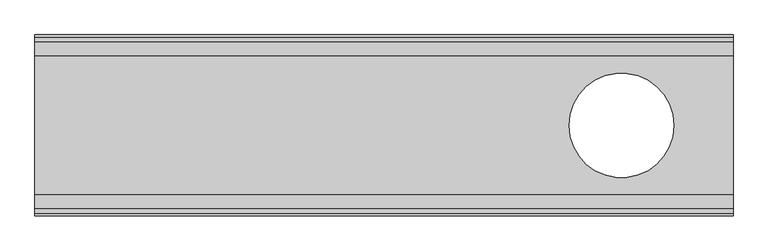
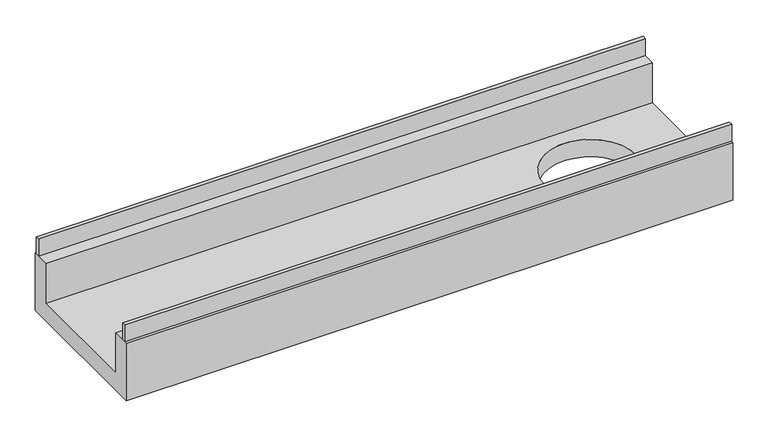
"""IFC4 building model written with IfcOpenShell, lengths in millimetres: sanitary terminal geometry, PF_ST_Slabdrain_H200SK_channels_USA_ACO : H200SK-13 Constant Depth Channel with Ductile iron edge rail."""

from ifc_helpers import new_model, si_unit, frame, origin, place, context, project, spatial, polyline, circle_curve, outline, extrude, source, transform, mapped, element, save
from ifc_brep_helpers import plane_surface, revolved_surface, advanced_brep


def sanitary_terminal_3f758c1d(model_context):
    return source(origin(), model_context, "Body", "SolidModel", [
        advanced_brep(
        [(-605.6176554, 130.0, -30.0), (-605.6176554, 100.0, -30.0), (-605.6176554, 100.0, -100.0), (-605.6176554, -100.0, -100.0), (-605.6176554, -100.0, -30.0), (-605.6176554, -130.0, -30.0), (-605.6176554, -130.0, -130.0), (-605.6176554, 130.0, -130.0), (-1605.6176554, 130.0, -30.0), (-1605.6176554, 130.0, -130.0), (-1605.6176554, -130.0, -130.0), (-1605.6176554, -130.0, -30.0), (-1605.6176554, -100.0, -30.0), (-1605.6176554, -100.0, -100.0), (-1605.6176554, 100.0, -100.0), (-1605.6176554, 100.0, -30.0), (-840.6176554, 0.0, -130.0), (-690.6176554, 0.0, -130.0), (-690.6176554, 0.0, -100.0), (-840.6176554, 0.0, -100.0)],
        [
            (0, 1),
            (1, 2),
            (2, 3),
            (3, 4),
            (4, 5),
            (5, 6),
            (6, 7),
            (7, 0),
            (8, 9),
            (9, 10),
            (10, 11),
            (11, 12),
            (12, 13),
            (13, 14),
            (14, 15),
            (15, 8),
            (0, 8),
            (15, 1),
            (4, 12),
            (11, 5),
            (10, 6),
            (9, 7),
            (16, 17, circle_curve(frame((-765.6176554, 0.0, -130.0), z_axis=(0.0, 0.0, 1.0), x_axis=(1.0, 0.0, 0.0)), 75.0)),
            (17, 16, circle_curve(frame((-765.6176554, 0.0, -130.0), z_axis=(0.0, 0.0, 1.0), x_axis=(1.0, 0.0, 0.0)), 75.0)),
            (14, 2),
            (13, 3),
            (18, 19, circle_curve(frame((-765.6176554, 0.0, -100.0), z_axis=(0.0, 0.0, -1.0), x_axis=(1.0, 0.0, 0.0)), 75.0)),
            (19, 18, circle_curve(frame((-765.6176554, 0.0, -100.0), z_axis=(0.0, 0.0, -1.0), x_axis=(1.0, 0.0, 0.0)), 75.0)),
            (18, 17),
            (16, 19),
        ],
        [
            plane_surface(frame((-605.6176554, 0.0, -72.5), z_axis=(1.0, 0.0, 0.0), x_axis=(0.0, -1.0, 0.0))),
            plane_surface(frame((-1605.6176554, 0.0, -72.5), z_axis=(-1.0, 0.0, 0.0), x_axis=(0.0, -1.0, 0.0))),
            plane_surface(frame((-1605.6176554, 115.0, -30.0), z_axis=(0.0, 0.0, 1.0), x_axis=(0.0, -1.0, 0.0))),
            plane_surface(frame((-1605.6176554, -115.0, -30.0), z_axis=(0.0, 0.0, 1.0), x_axis=(0.0, -1.0, 0.0))),
            plane_surface(frame((-1605.6176554, -130.0, -80.0), z_axis=(0.0, -1.0, 0.0), x_axis=(0.0, 0.0, -1.0))),
            plane_surface(frame((-1605.6176554, 0.0, -130.0), z_axis=(0.0, 0.0, -1.0), x_axis=(0.0, 1.0, 0.0))),
            plane_surface(frame((-1605.6176554, 130.0, -80.0), z_axis=(0.0, 1.0, 0.0), x_axis=(0.0, 0.0, 1.0))),
            plane_surface(frame((-1605.6176554, 100.0, -65.0), z_axis=(0.0, -1.0, 0.0), x_axis=(0.0, 0.0, -1.0))),
            plane_surface(frame((-1605.6176554, 0.0, -100.0), z_axis=(0.0, 0.0, 1.0), x_axis=(0.0, -1.0, 0.0))),
            plane_surface(frame((-1605.6176554, -100.0, -65.0), z_axis=(0.0, 1.0, 0.0), x_axis=(0.0, 0.0, 1.0))),
            revolved_surface(polyline([(-690.6176554, 0.0, -130.0), (-690.6176554, 0.0, -100.0)]), (-765.6176554, 0.0, 0.0), (0.0, 0.0, -1.0)),
        ],
        [
            (0, [[1, 2, 3, 4, 5, 6, 7, 8]]),
            (1, [[9, 10, 11, 12, 13, 14, 15, 16]]),
            (2, [[-1, 17, -16, 18]]),
            (3, [[-5, 19, -12, 20]]),
            (4, [[-6, -20, -11, 21]]),
            (5, [[-7, -21, -10, 22], [23, 24]]),
            (6, [[-8, -22, -9, -17]]),
            (7, [[-2, -18, -15, 25]]),
            (8, [[-3, -25, -14, 26], [27, 28]]),
            (9, [[-4, -26, -13, -19]]),
            (10, [[29, -23, 30, -27]]),
            (10, [[-29, -28, -30, -24]]),
        ],
    ),
        extrude(outline(polyline([(-605.6176554, 126.0), (-605.6176554, 120.0), (-1605.6176554, 120.0), (-1605.6176554, 126.0), (-605.6176554, 126.0)])), frame((0.0, 0.0, -30.0), z_axis=(0.0, 0.0, 1.0), x_axis=(1.0, 0.0, 0.0)), (0.0, 0.0, 1.0), 30.0),
        extrude(outline(polyline([(-605.6176554, -120.0), (-605.6176554, -126.0), (-1605.6176554, -126.0), (-1605.6176554, -120.0), (-605.6176554, -120.0)])), frame((0.0, 0.0, -30.0), z_axis=(0.0, 0.0, 1.0), x_axis=(1.0, 0.0, 0.0)), (0.0, 0.0, 1.0), 30.0),
    ])


if __name__ == "__main__":
    model = new_model("IFC4")
    model_context = context("Model", 3, world=origin())
    ifc_project = project(units=[si_unit("LENGTHUNIT", "METRE", prefix="MILLI")], contexts=[model_context])
    site = spatial("IfcSite", under=ifc_project)
    building = spatial("IfcBuilding", under=site)
    placement = place(None, origin())
    sanitary_terminal_shape = sanitary_terminal_3f758c1d(model_context)
    element("IfcSanitaryTerminal", 1, ObjectType="PF_ST_Slabdrain_H200SK_channels_USA_ACO : H200SK-13 Constant Depth Channel with Ductile iron edge rail", at=placement, inside=building, context=model_context, shape_type="MappedRepresentation", body=[
        mapped(sanitary_terminal_shape, transform((0.0, 0.0, 0.0), x_axis=(1.0, 0.0, 0.0), y_axis=(0.0, 1.0, 0.0), z_axis=(0.0, 0.0, 1.0))),
    ])
    save(model, "model.ifc")
